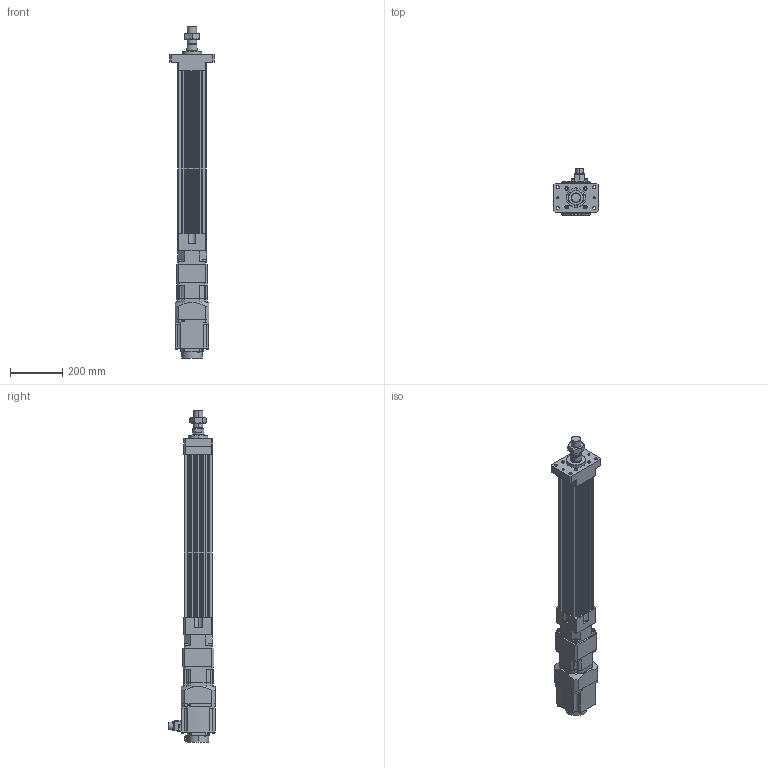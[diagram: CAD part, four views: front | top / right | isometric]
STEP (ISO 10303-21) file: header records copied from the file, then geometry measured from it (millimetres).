
FILE_DESCRIPTION (( 'STEP AP203' ), '1' );
FILE_NAME ('HES110NS(HS)-S450-W015G00-M-FM.STEP', '2023-01-28T06:27:50', ( 'tms' ), ( '' ), 'SwSTEP 2.0', 'SolidWorks 2013', '' );
FILE_SCHEMA (( 'CONFIG_CONTROL_DESIGN' ));
Length unit declared in the file: millimetre
Products named in the file (8): AB1151; M36X1.5P; P0401400706; HG-SR152; AB115-003[HG-SR152]; HES110-S450-G120-FM; HES110NS(HS)-S450-W015G00-M-FM; HES110 ROD M ST450
Assembly tree (7 placements, depth 3):
  HES110NS(HS)-S450-W015G00-M-FM
    HES110-S450-G120-FM
    HES110 ROD M ST450
    M36X1.5P
    AB115-003[HG-SR152]
      AB1151
      P0401400706
    HG-SR152
Bounding box: 170 x 177.49 x 1271.5 mm (x, y, z)
Volume: 8270705.2 mm3; surface area: 1148445.6 mm2
Topology: 4 solids, 15 shells, 1170 faces, 2958 edges, 1925 vertices
Faces by surface type: plane 559, cylinder 525, cone 74, bspline 8, torus 4
Entity records: 36974 total; most frequent: CARTESIAN_POINT 7028, DIRECTION 6389, ORIENTED_EDGE 5864, EDGE_CURVE 2942, AXIS2_PLACEMENT_3D 2346, VERTEX_POINT 1925, VECTOR 1697, LINE 1697
